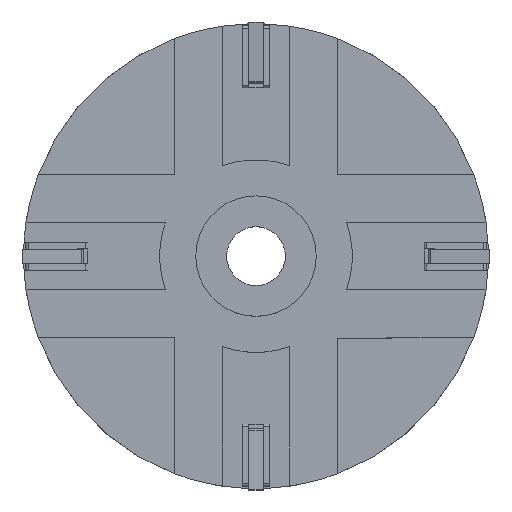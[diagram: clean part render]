
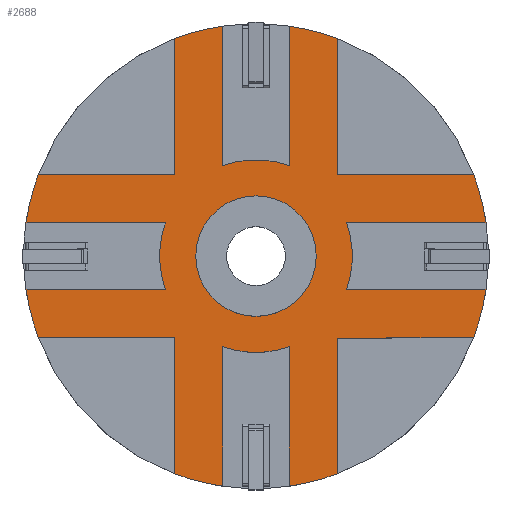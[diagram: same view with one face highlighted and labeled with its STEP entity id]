
A CAD part, top view. The second image highlights one B-rep face of the part: STEP entity #2688.
In plain terms, the highlighted planar face has unit normal (0, 0, 1).
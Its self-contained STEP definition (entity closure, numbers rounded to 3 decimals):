
#32=CARTESIAN_POINT('',(-6.899,47.734,4.));
#33=VERTEX_POINT('',#32);
#34=CARTESIAN_POINT('',(-6.899,18.772,4.));
#35=VERTEX_POINT('',#34);
#36=CARTESIAN_POINT('',(-6.899,47.734,4.));
#37=DIRECTION('',(0.,-1.,0.));
#38=VECTOR('',#37,28.962);
#39=LINE('',#36,#38);
#40=EDGE_CURVE('',#33,#35,#39,.T.);
#72=CARTESIAN_POINT('',(-47.734,-6.899,4.));
#73=VERTEX_POINT('',#72);
#74=CARTESIAN_POINT('',(-18.772,-6.899,4.));
#75=VERTEX_POINT('',#74);
#76=CARTESIAN_POINT('',(-47.734,-6.899,4.));
#77=DIRECTION('',(1.,0.,-0.));
#78=VECTOR('',#77,28.962);
#79=LINE('',#76,#78);
#80=EDGE_CURVE('',#73,#75,#79,.T.);
#112=CARTESIAN_POINT('',(47.734,6.899,4.));
#113=VERTEX_POINT('',#112);
#114=CARTESIAN_POINT('',(18.772,6.899,4.));
#115=VERTEX_POINT('',#114);
#116=CARTESIAN_POINT('',(47.734,6.899,4.));
#117=DIRECTION('',(-1.,0.,0.));
#118=VECTOR('',#117,28.962);
#119=LINE('',#116,#118);
#120=EDGE_CURVE('',#113,#115,#119,.T.);
#152=CARTESIAN_POINT('',(6.899,-47.734,4.));
#153=VERTEX_POINT('',#152);
#154=CARTESIAN_POINT('',(6.899,-18.772,4.));
#155=VERTEX_POINT('',#154);
#156=CARTESIAN_POINT('',(6.899,-47.734,4.));
#157=DIRECTION('',(0.,1.,0.));
#158=VECTOR('',#157,28.962);
#159=LINE('',#156,#158);
#160=EDGE_CURVE('',#153,#155,#159,.T.);
#462=CARTESIAN_POINT('',(-12.5,0.,4.));
#463=VERTEX_POINT('',#462);
#489=CARTESIAN_POINT('',(12.5,0.,4.));
#490=VERTEX_POINT('',#489);
#491=CARTESIAN_POINT('',(0.,0.,4.));
#492=DIRECTION('',(0.,0.,1.));
#493=DIRECTION('',(1.,0.,-0.));
#494=AXIS2_PLACEMENT_3D('',#491,#492,#493);
#495=CIRCLE('',#494,12.5);
#496=EDGE_CURVE('',#463,#490,#495,.T.);
#498=CARTESIAN_POINT('',(0.,0.,4.));
#499=DIRECTION('',(0.,0.,1.));
#500=DIRECTION('',(1.,0.,-0.));
#501=AXIS2_PLACEMENT_3D('',#498,#499,#500);
#502=CIRCLE('',#501,12.5);
#503=EDGE_CURVE('',#490,#463,#502,.T.);
#1418=CARTESIAN_POINT('',(-47.734,6.899,4.));
#1419=VERTEX_POINT('',#1418);
#1426=CARTESIAN_POINT('',(-45.172,16.899,4.));
#1427=VERTEX_POINT('',#1426);
#1428=CARTESIAN_POINT('',(0.,0.,4.));
#1429=DIRECTION('',(0.,0.,1.));
#1430=DIRECTION('',(1.,0.,-0.));
#1431=AXIS2_PLACEMENT_3D('',#1428,#1429,#1430);
#1432=CIRCLE('',#1431,48.23);
#1433=EDGE_CURVE('',#1427,#1419,#1432,.T.);
#1442=CARTESIAN_POINT('',(-16.899,45.172,4.));
#1443=VERTEX_POINT('',#1442);
#1450=CARTESIAN_POINT('',(0.,0.,4.));
#1451=DIRECTION('',(0.,0.,1.));
#1452=DIRECTION('',(1.,0.,-0.));
#1453=AXIS2_PLACEMENT_3D('',#1450,#1451,#1452);
#1454=CIRCLE('',#1453,48.23);
#1455=EDGE_CURVE('',#33,#1443,#1454,.T.);
#1459=CARTESIAN_POINT('',(6.899,47.734,4.));
#1460=VERTEX_POINT('',#1459);
#1467=CARTESIAN_POINT('',(16.899,45.172,4.));
#1468=VERTEX_POINT('',#1467);
#1469=CARTESIAN_POINT('',(0.,0.,4.));
#1470=DIRECTION('',(0.,0.,1.));
#1471=DIRECTION('',(1.,0.,-0.));
#1472=AXIS2_PLACEMENT_3D('',#1469,#1470,#1471);
#1473=CIRCLE('',#1472,48.23);
#1474=EDGE_CURVE('',#1468,#1460,#1473,.T.);
#1483=CARTESIAN_POINT('',(45.172,16.899,4.));
#1484=VERTEX_POINT('',#1483);
#1491=CARTESIAN_POINT('',(0.,0.,4.));
#1492=DIRECTION('',(0.,0.,1.));
#1493=DIRECTION('',(1.,0.,-0.));
#1494=AXIS2_PLACEMENT_3D('',#1491,#1492,#1493);
#1495=CIRCLE('',#1494,48.23);
#1496=EDGE_CURVE('',#113,#1484,#1495,.T.);
#1500=CARTESIAN_POINT('',(47.734,-6.899,4.));
#1501=VERTEX_POINT('',#1500);
#1508=CARTESIAN_POINT('',(45.172,-16.899,4.));
#1509=VERTEX_POINT('',#1508);
#1510=CARTESIAN_POINT('',(0.,0.,4.));
#1511=DIRECTION('',(0.,0.,1.));
#1512=DIRECTION('',(1.,0.,-0.));
#1513=AXIS2_PLACEMENT_3D('',#1510,#1511,#1512);
#1514=CIRCLE('',#1513,48.23);
#1515=EDGE_CURVE('',#1509,#1501,#1514,.T.);
#1524=CARTESIAN_POINT('',(16.899,-45.172,4.));
#1525=VERTEX_POINT('',#1524);
#1532=CARTESIAN_POINT('',(0.,0.,4.));
#1533=DIRECTION('',(0.,0.,1.));
#1534=DIRECTION('',(1.,0.,-0.));
#1535=AXIS2_PLACEMENT_3D('',#1532,#1533,#1534);
#1536=CIRCLE('',#1535,48.23);
#1537=EDGE_CURVE('',#153,#1525,#1536,.T.);
#1541=CARTESIAN_POINT('',(-6.894,-47.735,4.));
#1542=VERTEX_POINT('',#1541);
#1549=CARTESIAN_POINT('',(-16.894,-45.174,4.));
#1550=VERTEX_POINT('',#1549);
#1551=CARTESIAN_POINT('',(0.,0.,4.));
#1552=DIRECTION('',(0.,0.,1.));
#1553=DIRECTION('',(1.,0.,-0.));
#1554=AXIS2_PLACEMENT_3D('',#1551,#1552,#1553);
#1555=CIRCLE('',#1554,48.23);
#1556=EDGE_CURVE('',#1550,#1542,#1555,.T.);
#1565=CARTESIAN_POINT('',(-45.172,-16.899,4.));
#1566=VERTEX_POINT('',#1565);
#1573=CARTESIAN_POINT('',(0.,0.,4.));
#1574=DIRECTION('',(0.,0.,1.));
#1575=DIRECTION('',(1.,0.,-0.));
#1576=AXIS2_PLACEMENT_3D('',#1573,#1574,#1575);
#1577=CIRCLE('',#1576,48.23);
#1578=EDGE_CURVE('',#73,#1566,#1577,.T.);
#2459=CARTESIAN_POINT('',(-16.924,-16.899,4.));
#2460=VERTEX_POINT('',#2459);
#2467=CARTESIAN_POINT('',(-45.172,-16.899,4.));
#2468=DIRECTION('',(1.,0.,-0.));
#2469=VECTOR('',#2468,28.248);
#2470=LINE('',#2467,#2469);
#2471=EDGE_CURVE('',#1566,#2460,#2470,.T.);
#2483=CARTESIAN_POINT('',(-16.894,-18.797,4.));
#2484=VERTEX_POINT('',#2483);
#2491=CARTESIAN_POINT('',(-16.924,-16.899,4.));
#2492=DIRECTION('',(0.016,-1.,0.));
#2493=VECTOR('',#2492,1.898);
#2494=LINE('',#2491,#2493);
#2495=EDGE_CURVE('',#2460,#2484,#2494,.T.);
#2508=CARTESIAN_POINT('',(-16.894,-45.174,4.));
#2509=DIRECTION('',(0.,1.,0.));
#2510=VECTOR('',#2509,26.377);
#2511=LINE('',#2508,#2510);
#2512=EDGE_CURVE('',#1550,#2484,#2511,.T.);
#2523=CARTESIAN_POINT('',(-6.894,-18.774,4.));
#2524=VERTEX_POINT('',#2523);
#2531=CARTESIAN_POINT('',(-6.894,-18.774,4.));
#2532=DIRECTION('',(0.,-1.,0.));
#2533=VECTOR('',#2532,28.961);
#2534=LINE('',#2531,#2533);
#2535=EDGE_CURVE('',#2524,#1542,#2534,.T.);
#2542=CARTESIAN_POINT('',(0.,0.,4.));
#2543=DIRECTION('',(0.,0.,1.));
#2544=DIRECTION('',(1.,0.,0.));
#2545=AXIS2_PLACEMENT_3D('',#2542,#2543,#2544);
#2546=PLANE('',#2545);
#2547=CARTESIAN_POINT('',(6.899,18.772,4.));
#2548=VERTEX_POINT('',#2547);
#2549=CARTESIAN_POINT('',(6.899,18.772,4.));
#2550=DIRECTION('',(0.,1.,0.));
#2551=VECTOR('',#2550,28.962);
#2552=LINE('',#2549,#2551);
#2553=EDGE_CURVE('',#2548,#1460,#2552,.T.);
#2554=ORIENTED_EDGE('',*,*,#2553,.F.);
#2555=CARTESIAN_POINT('',(0.,0.,4.));
#2556=DIRECTION('',(0.,0.,1.));
#2557=DIRECTION('',(1.,0.,-0.));
#2558=AXIS2_PLACEMENT_3D('',#2555,#2556,#2557);
#2559=CIRCLE('',#2558,20.);
#2560=EDGE_CURVE('',#2548,#35,#2559,.T.);
#2561=ORIENTED_EDGE('',*,*,#2560,.T.);
#2562=ORIENTED_EDGE('',*,*,#40,.F.);
#2563=ORIENTED_EDGE('',*,*,#1455,.T.);
#2564=CARTESIAN_POINT('',(-16.899,16.899,4.));
#2565=VERTEX_POINT('',#2564);
#2566=CARTESIAN_POINT('',(-16.899,16.899,4.));
#2567=DIRECTION('',(0.,1.,0.));
#2568=VECTOR('',#2567,28.273);
#2569=LINE('',#2566,#2568);
#2570=EDGE_CURVE('',#2565,#1443,#2569,.T.);
#2571=ORIENTED_EDGE('',*,*,#2570,.F.);
#2572=CARTESIAN_POINT('',(-45.172,16.899,4.));
#2573=DIRECTION('',(1.,0.,-0.));
#2574=VECTOR('',#2573,28.273);
#2575=LINE('',#2572,#2574);
#2576=EDGE_CURVE('',#1427,#2565,#2575,.T.);
#2577=ORIENTED_EDGE('',*,*,#2576,.F.);
#2578=ORIENTED_EDGE('',*,*,#1433,.T.);
#2579=CARTESIAN_POINT('',(-18.772,6.899,4.));
#2580=VERTEX_POINT('',#2579);
#2581=CARTESIAN_POINT('',(-18.772,6.899,4.));
#2582=DIRECTION('',(-1.,0.,0.));
#2583=VECTOR('',#2582,28.962);
#2584=LINE('',#2581,#2583);
#2585=EDGE_CURVE('',#2580,#1419,#2584,.T.);
#2586=ORIENTED_EDGE('',*,*,#2585,.F.);
#2587=CARTESIAN_POINT('',(-20.,0.,4.));
#2588=VERTEX_POINT('',#2587);
#2589=CARTESIAN_POINT('',(0.,0.,4.));
#2590=DIRECTION('',(0.,0.,1.));
#2591=DIRECTION('',(1.,0.,-0.));
#2592=AXIS2_PLACEMENT_3D('',#2589,#2590,#2591);
#2593=CIRCLE('',#2592,20.);
#2594=EDGE_CURVE('',#2580,#2588,#2593,.T.);
#2595=ORIENTED_EDGE('',*,*,#2594,.T.);
#2596=CARTESIAN_POINT('',(0.,0.,4.));
#2597=DIRECTION('',(0.,0.,1.));
#2598=DIRECTION('',(1.,0.,-0.));
#2599=AXIS2_PLACEMENT_3D('',#2596,#2597,#2598);
#2600=CIRCLE('',#2599,20.);
#2601=EDGE_CURVE('',#2588,#75,#2600,.T.);
#2602=ORIENTED_EDGE('',*,*,#2601,.T.);
#2603=ORIENTED_EDGE('',*,*,#80,.F.);
#2604=ORIENTED_EDGE('',*,*,#1578,.T.);
#2605=ORIENTED_EDGE('',*,*,#2471,.T.);
#2606=ORIENTED_EDGE('',*,*,#2495,.T.);
#2607=ORIENTED_EDGE('',*,*,#2512,.F.);
#2608=ORIENTED_EDGE('',*,*,#1556,.T.);
#2609=ORIENTED_EDGE('',*,*,#2535,.F.);
#2610=CARTESIAN_POINT('',(0.,0.,4.));
#2611=DIRECTION('',(0.,0.,1.));
#2612=DIRECTION('',(1.,0.,-0.));
#2613=AXIS2_PLACEMENT_3D('',#2610,#2611,#2612);
#2614=CIRCLE('',#2613,20.);
#2615=EDGE_CURVE('',#2524,#155,#2614,.T.);
#2616=ORIENTED_EDGE('',*,*,#2615,.T.);
#2617=ORIENTED_EDGE('',*,*,#160,.F.);
#2618=ORIENTED_EDGE('',*,*,#1537,.T.);
#2619=CARTESIAN_POINT('',(16.899,-38.761,4.));
#2620=VERTEX_POINT('',#2619);
#2621=CARTESIAN_POINT('',(16.899,-38.761,4.));
#2622=DIRECTION('',(0.,-1.,0.));
#2623=VECTOR('',#2622,6.412);
#2624=LINE('',#2621,#2623);
#2625=EDGE_CURVE('',#2620,#1525,#2624,.T.);
#2626=ORIENTED_EDGE('',*,*,#2625,.F.);
#2627=CARTESIAN_POINT('',(16.9,-17.05,4.));
#2628=VERTEX_POINT('',#2627);
#2629=CARTESIAN_POINT('',(16.9,-17.05,4.));
#2630=DIRECTION('',(0.,-1.,0.));
#2631=VECTOR('',#2630,21.711);
#2632=LINE('',#2629,#2631);
#2633=EDGE_CURVE('',#2628,#2620,#2632,.T.);
#2634=ORIENTED_EDGE('',*,*,#2633,.F.);
#2635=CARTESIAN_POINT('',(41.35,-16.899,4.));
#2636=VERTEX_POINT('',#2635);
#2637=CARTESIAN_POINT('',(41.35,-16.899,4.));
#2638=DIRECTION('',(-1.,-0.006,0.));
#2639=VECTOR('',#2638,24.451);
#2640=LINE('',#2637,#2639);
#2641=EDGE_CURVE('',#2636,#2628,#2640,.T.);
#2642=ORIENTED_EDGE('',*,*,#2641,.F.);
#2643=CARTESIAN_POINT('',(41.35,-16.899,4.));
#2644=DIRECTION('',(1.,0.,-0.));
#2645=VECTOR('',#2644,3.822);
#2646=LINE('',#2643,#2645);
#2647=EDGE_CURVE('',#2636,#1509,#2646,.T.);
#2648=ORIENTED_EDGE('',*,*,#2647,.T.);
#2649=ORIENTED_EDGE('',*,*,#1515,.T.);
#2650=CARTESIAN_POINT('',(18.772,-6.899,4.));
#2651=VERTEX_POINT('',#2650);
#2652=CARTESIAN_POINT('',(18.772,-6.899,4.));
#2653=DIRECTION('',(1.,-0.,0.));
#2654=VECTOR('',#2653,28.962);
#2655=LINE('',#2652,#2654);
#2656=EDGE_CURVE('',#2651,#1501,#2655,.T.);
#2657=ORIENTED_EDGE('',*,*,#2656,.F.);
#2658=CARTESIAN_POINT('',(0.,0.,4.));
#2659=DIRECTION('',(0.,0.,1.));
#2660=DIRECTION('',(1.,0.,-0.));
#2661=AXIS2_PLACEMENT_3D('',#2658,#2659,#2660);
#2662=CIRCLE('',#2661,20.);
#2663=EDGE_CURVE('',#2651,#115,#2662,.T.);
#2664=ORIENTED_EDGE('',*,*,#2663,.T.);
#2665=ORIENTED_EDGE('',*,*,#120,.F.);
#2666=ORIENTED_EDGE('',*,*,#1496,.T.);
#2667=CARTESIAN_POINT('',(16.899,16.899,4.));
#2668=VERTEX_POINT('',#2667);
#2669=CARTESIAN_POINT('',(16.899,16.899,4.));
#2670=DIRECTION('',(1.,0.,-0.));
#2671=VECTOR('',#2670,28.273);
#2672=LINE('',#2669,#2671);
#2673=EDGE_CURVE('',#2668,#1484,#2672,.T.);
#2674=ORIENTED_EDGE('',*,*,#2673,.F.);
#2675=CARTESIAN_POINT('',(16.899,45.172,4.));
#2676=DIRECTION('',(0.,-1.,0.));
#2677=VECTOR('',#2676,28.273);
#2678=LINE('',#2675,#2677);
#2679=EDGE_CURVE('',#1468,#2668,#2678,.T.);
#2680=ORIENTED_EDGE('',*,*,#2679,.F.);
#2681=ORIENTED_EDGE('',*,*,#1474,.T.);
#2682=EDGE_LOOP('',(#2554,#2561,#2562,#2563,#2571,#2577,#2578,#2586,#2595,#2602,#2603,#2604,#2605,#2606,#2607,#2608,#2609,#2616,#2617,#2618,#2626,#2634,#2642,#2648,#2649,#2657,
#2664,#2665,#2666,#2674,#2680,#2681));
#2683=FACE_BOUND('',#2682,.T.);
#2684=ORIENTED_EDGE('',*,*,#496,.F.);
#2685=ORIENTED_EDGE('',*,*,#503,.F.);
#2686=EDGE_LOOP('',(#2684,#2685));
#2687=FACE_BOUND('',#2686,.T.);
#2688=ADVANCED_FACE('',(#2683,#2687),#2546,.T.);
